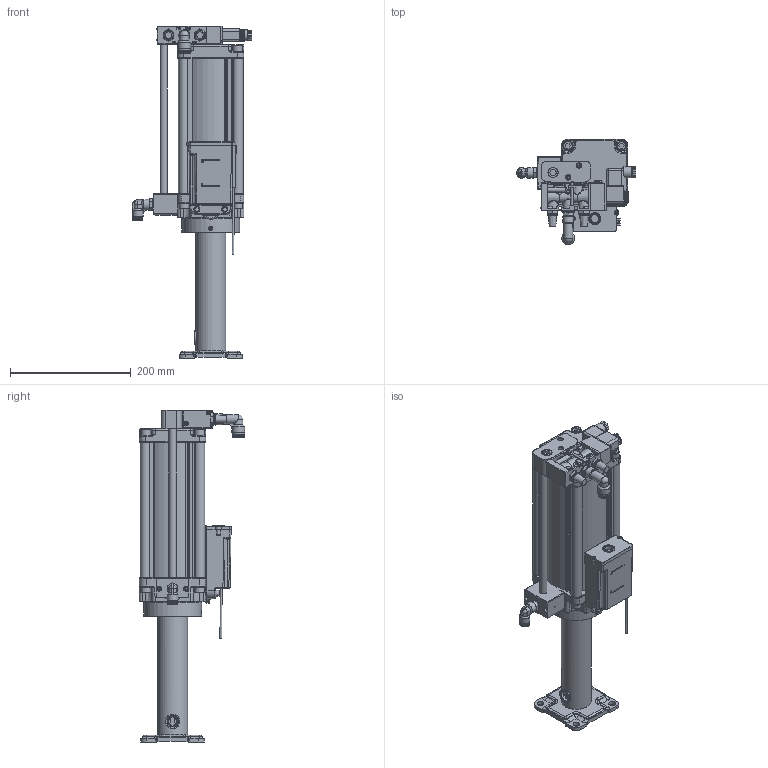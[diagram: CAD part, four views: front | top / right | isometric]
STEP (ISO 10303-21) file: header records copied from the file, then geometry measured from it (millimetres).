
FILE_DESCRIPTION(/* description */ ('Unknown'),/* implementation_level */ '2;1');
FILE_NAME(/* name */ 'MHBU-100-12M-110-4E1-DC24',/* time_stamp */ '2024-01-30T14:56:41+08:00',/* author */ ('Unknown'),/* organization */ ('Unknown'),/* preprocessor_version */ 'ST-DEVELOPER v16.7',/* originating_system */ 'DEX',/* authorisation */ $);
FILE_SCHEMA (('AUTOMOTIVE_DESIGN {1 0 10303 214 3 1 1}'));
Products named in the file (1): MHBU-100-12M-110-4E1-DC24
Bounding box: 197.35 x 174.4 x 550.4 mm (x, y, z)
Volume: 4296893.8 mm3; surface area: 339065.8 mm2
Topology: 1 solids, 1 shells, 2085 faces, 5239 edges, 3240 vertices
Faces by surface type: plane 993, cylinder 588, cone 198, bspline 148, torus 140, sphere 18
Full cylindrical faces by diameter (mm): 1.3 x1, 2 x2, 2.2 x1, 2.4 x1, 2.9 x2, 3 x4, 3.6 x2, 4 x2, 4.3 x3, 4.459 x1, 4.5 x4, 4.9 x1, 5 x1, 5.5 x4, 5.7 x2, 6 x3, 6.35 x2, 6.9 x3, 7 x10, 7.05 x1, 7.188 x1, 7.2 x1, 7.25 x1, 7.4 x2, 7.5 x3, 8 x5, 8.1 x1, 8.95 x1, 9 x1, 9.1 x1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
Entity records: 84277 total; most frequent: CARTESIAN_POINT 22488, ORIENTED_EDGE 9628, DIRECTION 9533, EDGE_CURVE 4814, AXIS2_PLACEMENT_3D 3474, VERTEX_POINT 3123, LINE 2585, VECTOR 2585
